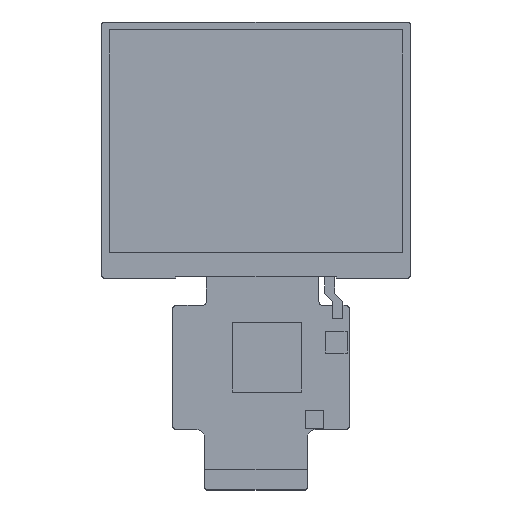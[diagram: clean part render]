
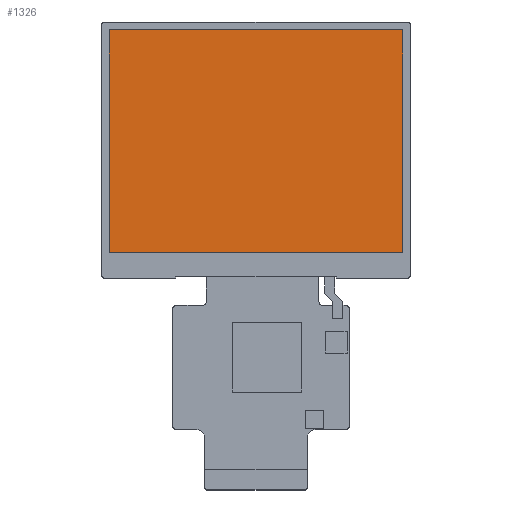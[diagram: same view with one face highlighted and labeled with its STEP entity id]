
A CAD part, top view. The second image highlights one B-rep face of the part: STEP entity #1326.
In plain terms, the highlighted planar face has unit normal (0, 0, 1).
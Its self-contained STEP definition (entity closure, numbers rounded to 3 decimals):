
#217=DIRECTION('',(-1.,0.,0.));
#218=VECTOR('',#217,73.1);
#219=CARTESIAN_POINT('',(36.55,27.75,0.8));
#220=LINE('',#219,#218);
#221=DIRECTION('',(0.,1.,0.));
#222=VECTOR('',#221,55.5);
#223=CARTESIAN_POINT('',(36.55,-27.75,0.8));
#224=LINE('',#223,#222);
#225=DIRECTION('',(1.,0.,0.));
#226=VECTOR('',#225,73.1);
#227=CARTESIAN_POINT('',(-36.55,-27.75,0.8));
#228=LINE('',#227,#226);
#229=DIRECTION('',(0.,-1.,0.));
#230=VECTOR('',#229,55.5);
#231=CARTESIAN_POINT('',(-36.55,27.75,0.8));
#232=LINE('',#231,#230);
#813=CARTESIAN_POINT('',(36.55,27.75,0.8));
#814=CARTESIAN_POINT('',(-36.55,27.75,0.8));
#815=VERTEX_POINT('',#813);
#816=VERTEX_POINT('',#814);
#817=CARTESIAN_POINT('',(-36.55,-27.75,0.8));
#818=VERTEX_POINT('',#817);
#819=CARTESIAN_POINT('',(36.55,-27.75,0.8));
#820=VERTEX_POINT('',#819);
#1315=CARTESIAN_POINT('',(0.,0.,0.8));
#1316=DIRECTION('',(0.,0.,1.));
#1317=DIRECTION('',(1.,0.,0.));
#1318=AXIS2_PLACEMENT_3D('',#1315,#1316,#1317);
#1319=PLANE('',#1318);
#1320=ORIENTED_EDGE('',*,*,#1267,.F.);
#1321=ORIENTED_EDGE('',*,*,#1282,.F.);
#1322=ORIENTED_EDGE('',*,*,#1296,.F.);
#1323=ORIENTED_EDGE('',*,*,#1309,.F.);
#1324=EDGE_LOOP('',(#1320,#1321,#1322,#1323));
#1325=FACE_OUTER_BOUND('',#1324,.F.);
#1267=EDGE_CURVE('',#815,#816,#220,.T.);
#1282=EDGE_CURVE('',#820,#815,#224,.T.);
#1296=EDGE_CURVE('',#818,#820,#228,.T.);
#1309=EDGE_CURVE('',#816,#818,#232,.T.);
#1326=ADVANCED_FACE('',(#1325),#1319,.T.);
